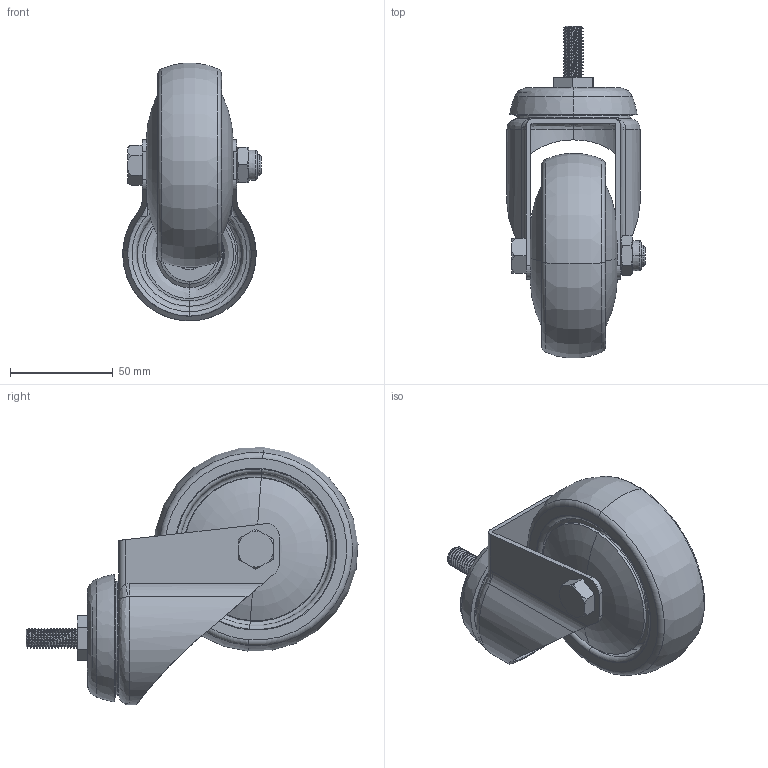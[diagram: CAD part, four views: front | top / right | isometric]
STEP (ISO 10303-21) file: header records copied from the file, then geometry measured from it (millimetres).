
FILE_DESCRIPTION (( 'STEP AP203' ), '1' );
FILE_NAME ('11290400266843.STEP', '2025-05-27T02:48:46', ( '20241006' ), ( '' ), 'SwSTEP 2.0', 'SolidWorks 2021', '' );
FILE_SCHEMA (( 'CONFIG_CONTROL_DESIGN' ));
Length unit declared in the file: millimetre
Products named in the file (6): 8煦3-16勤晚19x25佪諶; 葩璃 (2) ^11290400265053.STEP; 葩璃 (3) ^11290400265053.STEP; 4''''''''____PPR________ -^11290400265053.STEP; ^11290400265053.STEP; 11290400266843
Assembly tree (5 placements, depth 2):
  11290400266843
    葩璃 (2) ^11290400265053.STEP
    葩璃 (3) ^11290400265053.STEP
    ^11290400265053.STEP
    4''''''''____PPR________ -^11290400265053.STEP
    8煦3-16勤晚19x25佪諶
Bounding box: 67.5 x 161.83 x 125.64 mm (x, y, z)
Volume: 240115.9 mm3; surface area: 84551.6 mm2
Topology: 6 solids, 6 shells, 249 faces, 608 edges, 381 vertices
Faces by surface type: cylinder 84, plane 56, cone 46, bspline 36, torus 27
Entity records: 14416 total; most frequent: CARTESIAN_POINT 8395, ORIENTED_EDGE 1216, DIRECTION 1052, EDGE_CURVE 608, AXIS2_PLACEMENT_3D 425, VERTEX_POINT 381, EDGE_LOOP 273, FACE_OUTER_BOUND 249
